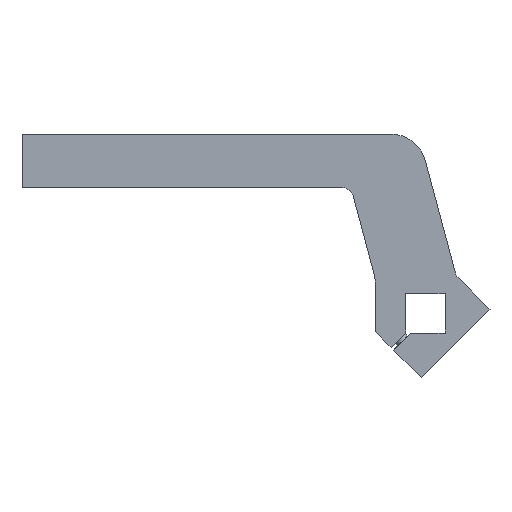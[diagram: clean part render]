
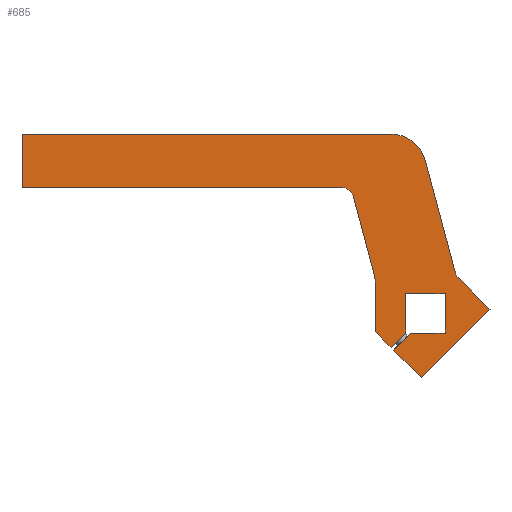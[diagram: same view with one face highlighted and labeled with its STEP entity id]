
A CAD part, left-side view. The second image highlights one B-rep face of the part: STEP entity #685.
In plain terms, the highlighted planar face has unit normal (-1, 0, 0).
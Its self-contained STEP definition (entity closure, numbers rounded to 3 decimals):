
#43=PLANE('',#758);
#65=FACE_OUTER_BOUND('',#110,.T.);
#110=EDGE_LOOP('',(#512,#513,#514,#515,#516,#517,#518,#519,#520,#521,#522,
#523,#524,#525,#526,#527,#528,#529,#530,#531));
#151=LINE('',#1007,#215);
#156=LINE('',#1022,#220);
#162=LINE('',#1059,#226);
#166=LINE('',#1071,#230);
#167=LINE('',#1074,#231);
#168=LINE('',#1075,#232);
#169=LINE('',#1077,#233);
#170=LINE('',#1079,#234);
#171=LINE('',#1081,#235);
#172=LINE('',#1083,#236);
#173=LINE('',#1085,#237);
#174=LINE('',#1087,#238);
#175=LINE('',#1089,#239);
#176=LINE('',#1091,#240);
#177=LINE('',#1093,#241);
#178=LINE('',#1094,#242);
#215=VECTOR('',#809,10.);
#220=VECTOR('',#822,10.);
#226=VECTOR('',#858,10.);
#230=VECTOR('',#870,10.);
#231=VECTOR('',#873,10.);
#232=VECTOR('',#874,10.);
#233=VECTOR('',#875,10.);
#234=VECTOR('',#876,10.);
#235=VECTOR('',#877,10.);
#236=VECTOR('',#878,10.);
#237=VECTOR('',#879,10.);
#238=VECTOR('',#880,10.);
#239=VECTOR('',#881,10.);
#240=VECTOR('',#882,10.);
#241=VECTOR('',#883,10.);
#242=VECTOR('',#884,10.);
#277=CIRCLE('',#732,6.);
#279=CIRCLE('',#736,6.);
#292=CIRCLE('',#751,20.);
#294=CIRCLE('',#755,20.);
#309=VERTEX_POINT('',#997);
#310=VERTEX_POINT('',#998);
#313=VERTEX_POINT('',#1006);
#315=VERTEX_POINT('',#1012);
#316=VERTEX_POINT('',#1013);
#319=VERTEX_POINT('',#1021);
#332=VERTEX_POINT('',#1049);
#333=VERTEX_POINT('',#1050);
#336=VERTEX_POINT('',#1061);
#337=VERTEX_POINT('',#1062);
#340=VERTEX_POINT('',#1073);
#341=VERTEX_POINT('',#1076);
#342=VERTEX_POINT('',#1078);
#343=VERTEX_POINT('',#1080);
#344=VERTEX_POINT('',#1082);
#345=VERTEX_POINT('',#1084);
#346=VERTEX_POINT('',#1086);
#347=VERTEX_POINT('',#1088);
#348=VERTEX_POINT('',#1090);
#349=VERTEX_POINT('',#1092);
#373=EDGE_CURVE('',#309,#310,#277,.T.);
#377=EDGE_CURVE('',#313,#310,#151,.T.);
#380=EDGE_CURVE('',#315,#316,#279,.T.);
#384=EDGE_CURVE('',#319,#316,#156,.T.);
#398=EDGE_CURVE('',#332,#333,#292,.T.);
#403=EDGE_CURVE('',#315,#333,#162,.T.);
#404=EDGE_CURVE('',#336,#337,#294,.T.);
#409=EDGE_CURVE('',#309,#337,#166,.T.);
#410=EDGE_CURVE('',#336,#340,#167,.T.);
#411=EDGE_CURVE('',#340,#319,#168,.T.);
#412=EDGE_CURVE('',#332,#341,#169,.T.);
#413=EDGE_CURVE('',#341,#342,#170,.T.);
#414=EDGE_CURVE('',#342,#343,#171,.T.);
#415=EDGE_CURVE('',#343,#344,#172,.T.);
#416=EDGE_CURVE('',#344,#345,#173,.T.);
#417=EDGE_CURVE('',#345,#346,#174,.T.);
#418=EDGE_CURVE('',#346,#347,#175,.T.);
#419=EDGE_CURVE('',#347,#348,#176,.T.);
#420=EDGE_CURVE('',#348,#349,#177,.T.);
#421=EDGE_CURVE('',#349,#313,#178,.T.);
#512=ORIENTED_EDGE('',*,*,#404,.F.);
#513=ORIENTED_EDGE('',*,*,#410,.T.);
#514=ORIENTED_EDGE('',*,*,#411,.T.);
#515=ORIENTED_EDGE('',*,*,#384,.T.);
#516=ORIENTED_EDGE('',*,*,#380,.F.);
#517=ORIENTED_EDGE('',*,*,#403,.T.);
#518=ORIENTED_EDGE('',*,*,#398,.F.);
#519=ORIENTED_EDGE('',*,*,#412,.T.);
#520=ORIENTED_EDGE('',*,*,#413,.T.);
#521=ORIENTED_EDGE('',*,*,#414,.T.);
#522=ORIENTED_EDGE('',*,*,#415,.T.);
#523=ORIENTED_EDGE('',*,*,#416,.T.);
#524=ORIENTED_EDGE('',*,*,#417,.T.);
#525=ORIENTED_EDGE('',*,*,#418,.T.);
#526=ORIENTED_EDGE('',*,*,#419,.T.);
#527=ORIENTED_EDGE('',*,*,#420,.T.);
#528=ORIENTED_EDGE('',*,*,#421,.T.);
#529=ORIENTED_EDGE('',*,*,#377,.T.);
#530=ORIENTED_EDGE('',*,*,#373,.F.);
#531=ORIENTED_EDGE('',*,*,#409,.T.);
#685=ADVANCED_FACE('',(#65),#43,.T.);
#732=AXIS2_PLACEMENT_3D('',#999,#801,#802);
#736=AXIS2_PLACEMENT_3D('',#1014,#814,#815);
#751=AXIS2_PLACEMENT_3D('',#1051,#849,#850);
#755=AXIS2_PLACEMENT_3D('',#1063,#861,#862);
#758=AXIS2_PLACEMENT_3D('',#1072,#871,#872);
#801=DIRECTION('center_axis',(-1.,0.,0.));
#802=DIRECTION('ref_axis',(0.,0.866,-0.5));
#809=DIRECTION('',(0.,0.707,0.707));
#814=DIRECTION('center_axis',(-1.,0.,0.));
#815=DIRECTION('ref_axis',(0.,-0.609,0.793));
#822=DIRECTION('',(0.,-1.,0.));
#849=DIRECTION('center_axis',(-1.,0.,0.));
#850=DIRECTION('ref_axis',(0.,-0.991,0.131));
#858=DIRECTION('',(0.,-0.259,-0.966));
#861=DIRECTION('center_axis',(1.,0.,0.));
#862=DIRECTION('ref_axis',(0.,-0.609,0.793));
#870=DIRECTION('',(0.,0.259,0.966));
#871=DIRECTION('center_axis',(-1.,0.,0.));
#872=DIRECTION('ref_axis',(0.,0.,1.));
#873=DIRECTION('',(0.,1.,0.));
#874=DIRECTION('',(0.,0.,-1.));
#875=DIRECTION('',(0.,0.,-1.));
#876=DIRECTION('',(0.,-0.707,-0.707));
#877=DIRECTION('',(0.,-0.707,0.707));
#878=DIRECTION('',(0.,0.,1.));
#879=DIRECTION('',(0.,-1.,0.));
#880=DIRECTION('',(0.,0.,-1.));
#881=DIRECTION('',(0.,1.,0.));
#882=DIRECTION('',(0.,0.707,-0.707));
#883=DIRECTION('',(0.,-0.707,-0.707));
#884=DIRECTION('',(0.,-0.707,0.707));
#997=CARTESIAN_POINT('',(-12.5,-16.72,22.6));
#998=CARTESIAN_POINT('',(-12.5,-18.273,19.91));
#999=CARTESIAN_POINT('Origin',(-12.5,-22.516,24.153));
#1006=CARTESIAN_POINT('',(-12.5,-36.062,2.121));
#1007=CARTESIAN_POINT('',(-12.5,-19.092,19.092));
#1012=CARTESIAN_POINT('',(-12.5,40.341,65.553));
#1013=CARTESIAN_POINT('',(-12.5,46.136,70.));
#1014=CARTESIAN_POINT('Origin',(-12.5,46.136,64.));
#1021=CARTESIAN_POINT('',(-12.5,225.,70.));
#1022=CARTESIAN_POINT('',(-12.5,41.533,70.));
#1049=CARTESIAN_POINT('',(-12.5,28.,16.863));
#1050=CARTESIAN_POINT('',(-12.5,28.681,22.039));
#1051=CARTESIAN_POINT('Origin',(-12.5,48.,16.863));
#1059=CARTESIAN_POINT('',(-12.5,28.,19.496));
#1061=CARTESIAN_POINT('',(-12.5,19.365,100.));
#1062=CARTESIAN_POINT('',(-12.5,0.047,85.176));
#1063=CARTESIAN_POINT('Origin',(-12.5,19.365,80.));
#1071=CARTESIAN_POINT('',(-12.5,4.019,100.));
#1072=CARTESIAN_POINT('Origin',(-12.5,86.869,66.18));
#1073=CARTESIAN_POINT('',(-12.5,225.,100.));
#1074=CARTESIAN_POINT('',(-12.5,225.,100.));
#1075=CARTESIAN_POINT('',(-12.5,225.,70.));
#1076=CARTESIAN_POINT('',(-12.5,28.,-10.184));
#1077=CARTESIAN_POINT('',(-12.5,28.,-10.184));
#1078=CARTESIAN_POINT('',(-12.5,19.092,-19.092));
#1079=CARTESIAN_POINT('',(-12.5,19.092,-19.092));
#1080=CARTESIAN_POINT('',(-12.5,11.,-11.));
#1081=CARTESIAN_POINT('',(-12.5,22.85,-22.85));
#1082=CARTESIAN_POINT('',(-12.5,11.,11.));
#1083=CARTESIAN_POINT('',(-12.5,11.,11.));
#1084=CARTESIAN_POINT('',(-12.5,-11.,11.));
#1085=CARTESIAN_POINT('',(-12.5,-11.,11.));
#1086=CARTESIAN_POINT('',(-12.5,-11.,-11.));
#1087=CARTESIAN_POINT('',(-12.5,-11.,38.59));
#1088=CARTESIAN_POINT('',(-12.5,8.172,-11.));
#1089=CARTESIAN_POINT('',(-12.5,37.934,-11.));
#1090=CARTESIAN_POINT('',(-12.5,17.678,-20.506));
#1091=CARTESIAN_POINT('',(-12.5,8.551,-11.379));
#1092=CARTESIAN_POINT('',(-12.5,2.121,-36.062));
#1093=CARTESIAN_POINT('',(-12.5,19.092,-19.092));
#1094=CARTESIAN_POINT('',(-12.5,-36.062,2.121));
